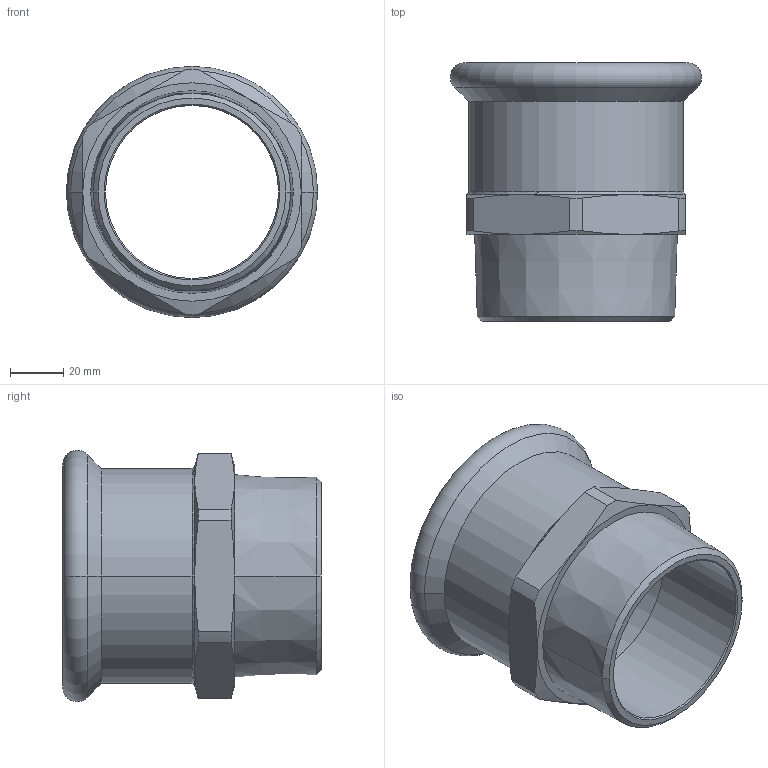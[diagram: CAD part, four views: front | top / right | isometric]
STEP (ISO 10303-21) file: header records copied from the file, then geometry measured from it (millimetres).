
FILE_DESCRIPTION(('Creo Elements/Direct Modeling STEP Export'),'2;1');
FILE_NAME('R2705_76xR2.1_updated.stp','2018-06-28T11:10:28',(''),(''),'PTC Creo Elements/Direct Modeling STEP processor for AP214 (Solid Model)','PTC Creo Elements/Direct Modeling 19.0C 15-Aug-2015 (C) Parametric Technology GmbH','');
FILE_SCHEMA(('AUTOMOTIVE_DESIGN { 1 0 10303 214 1 1 1 1 }'));
Length unit declared in the file: millimetre
Products named in the file (1): 643300.9.1
Bounding box: 94.33 x 97 x 94.33 mm (x, y, z)
Volume: 105264.4 mm3; surface area: 52341 mm2
Topology: 1 solids, 1 shells, 59 faces, 130 edges, 74 vertices
Faces by surface type: cone 22, plane 21, cylinder 12, torus 4
Entity records: 2845 total; most frequent: CARTESIAN_POINT 1723, ORIENTED_EDGE 260, DIRECTION 176, EDGE_CURVE 130, VERTEX_POINT 74, AXIS2_PLACEMENT_3D 71, EDGE_LOOP 62, FACE_OUTER_BOUND 59
